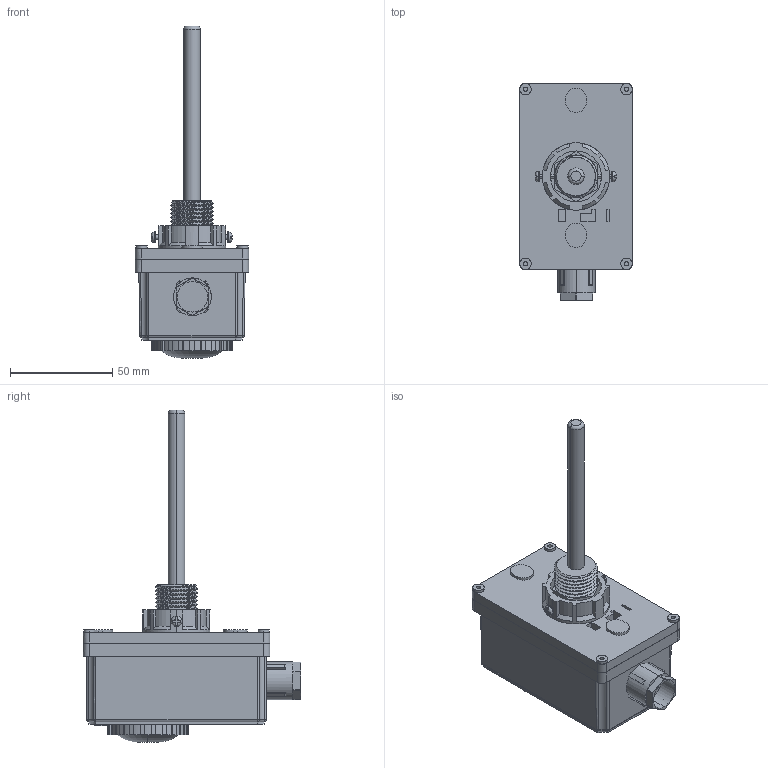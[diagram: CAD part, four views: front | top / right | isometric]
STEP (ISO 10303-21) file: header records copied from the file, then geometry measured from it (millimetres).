
FILE_DESCRIPTION (( 'STEP AP214' ), '1' );
FILE_NAME ('TC2_termostat_zanurzeniowy_6740700_0_3D_AFRISO.STEP', '2024-06-26T10:08:22', ( '' ), ( '' ), 'SwSTEP 2.0', 'SolidWorks 2022', '' );
FILE_SCHEMA (( 'AUTOMOTIVE_DESIGN' ));
Length unit declared in the file: millimetre
Products named in the file (1): TC2_termostat_zanurzeniowy_6740700_0_3D_AFRISO
Bounding box: 55.5 x 106.65 x 162.65 mm (x, y, z)
Volume: 233580.5 mm3; surface area: 32362.7 mm2
Topology: 1 solids, 1 shells, 401 faces, 1050 edges, 672 vertices
Faces by surface type: plane 227, cylinder 129, torus 19, cone 11, sphere 8, bspline 7
Entity records: 18074 total; most frequent: CARTESIAN_POINT 4109, ORIENTED_EDGE 2092, DIRECTION 2058, EDGE_CURVE 1046, AXIS2_PLACEMENT_3D 712, VERTEX_POINT 672, LINE 634, VECTOR 634
